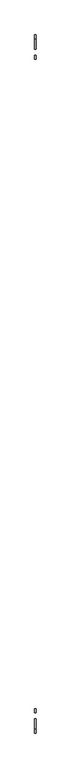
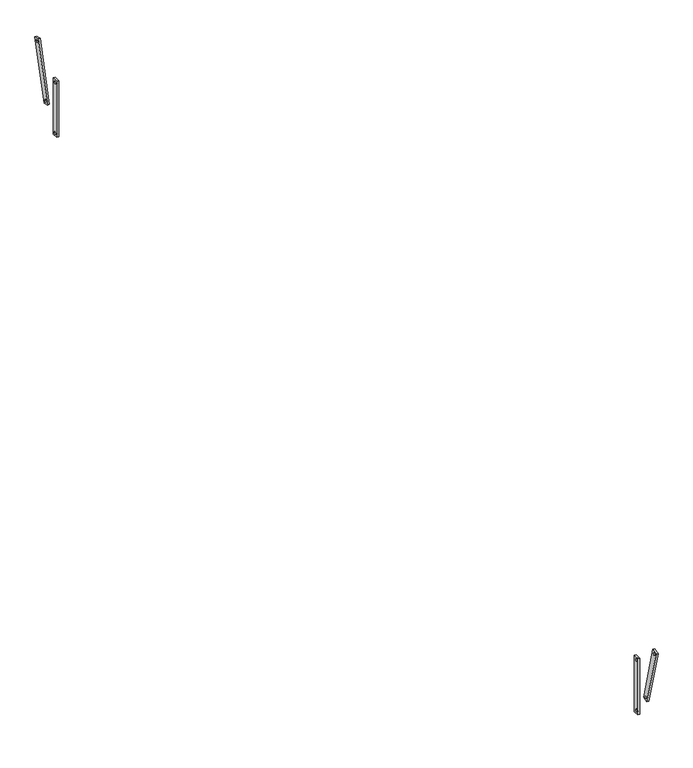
"""IFC4 building model written with IfcOpenShell, lengths in millimetres: proxy geometry, Modelos genéricos 281 : Modelos genéricos 278."""

from ifc_helpers import new_model, si_unit, point, frame, frame_2d, origin, place, context, project, spatial, polyline, circle_curve, trimmed, segment, composite_curve, outline, extrude, source, transform, mapped, element, save


def generic_models_d5e312a7(model_context):
    return source(origin(), model_context, "Body", "SweptSolid", [
        extrude(outline(polyline([(5318.6238165, 2800.0), (5318.6238165, 3200.0), (5358.6238165, 3200.0), (5358.6238165, 2800.0), (5318.6238165, 2800.0)]), holes=[composite_curve([segment(trimmed(circle_curve(frame_2d((5338.6238165, 3180.0)), 7.5), [point((5346.1238165, 3180.0))], [point((5331.1238165, 3180.0))], True, "CARTESIAN"), True, "CONTINUOUS"), segment(trimmed(circle_curve(frame_2d((5338.6238165, 3180.0)), 7.5), [point((5331.1238165, 3180.0))], [point((5346.1238165, 3180.0))], True, "CARTESIAN"), True, "CONTINUOUS")], self_intersect=False), composite_curve([segment(trimmed(circle_curve(frame_2d((5338.6238165, 2820.0)), 7.5), [point((5346.1238165, 2820.0))], [point((5331.1238165, 2820.0))], True, "CARTESIAN"), True, "CONTINUOUS"), segment(trimmed(circle_curve(frame_2d((5338.6238165, 2820.0)), 7.5), [point((5331.1238165, 2820.0))], [point((5346.1238165, 2820.0))], True, "CARTESIAN"), True, "CONTINUOUS")], self_intersect=False)]), frame((-9039.2527533, 0.0, 0.0), z_axis=(1.0, 0.0, 0.0), x_axis=(0.0, 1.0, 0.0)), (0.0, 0.0, 1.0), 12.7),
        extrude(outline(polyline([(5424.7907615, 2966.5419368), (5533.4947604, 3372.2307838), (5572.1317934, 3361.878022), (5463.4277945, 2956.1891749), (5424.7907615, 2966.5419368)]), holes=[composite_curve([segment(trimmed(circle_curve(frame_2d((5547.636896, 3347.7358864)), 7.5), [point((5554.8813397, 3345.7947435))], [point((5540.3924523, 3349.6770292))], True, "CARTESIAN"), True, "CONTINUOUS"), segment(trimmed(circle_curve(frame_2d((5547.636896, 3347.7358864)), 7.5), [point((5540.3924523, 3349.6770292))], [point((5554.8813397, 3345.7947435))], True, "CARTESIAN"), True, "CONTINUOUS")], self_intersect=False), composite_curve([segment(trimmed(circle_curve(frame_2d((5449.2856589, 2980.6840724)), 7.5), [point((5456.5301026, 2978.7429295))], [point((5442.0412152, 2982.6252152))], True, "CARTESIAN"), True, "CONTINUOUS"), segment(trimmed(circle_curve(frame_2d((5449.2856589, 2980.6840724)), 7.5), [point((5442.0412152, 2982.6252152))], [point((5456.5301026, 2978.7429295))], True, "CARTESIAN"), True, "CONTINUOUS")], self_intersect=False)]), frame((-9039.2527533, 0.0, 0.0), z_axis=(1.0, 0.0, 0.0), x_axis=(0.0, 1.0, 0.0)), (0.0, 0.0, 1.0), 12.7),
        extrude(outline(polyline([(-1421.3761835, 2800.0), (-1461.3761835, 2800.0), (-1461.3761835, 3200.0), (-1421.3761835, 3200.0), (-1421.3761835, 2800.0)]), holes=[composite_curve([segment(trimmed(circle_curve(frame_2d((-1441.3761835, 3180.0)), 7.5), [point((-1448.8761835, 3180.0))], [point((-1433.8761835, 3180.0))], True, "CARTESIAN"), True, "CONTINUOUS"), segment(trimmed(circle_curve(frame_2d((-1441.3761835, 3180.0)), 7.5), [point((-1433.8761835, 3180.0))], [point((-1448.8761835, 3180.0))], True, "CARTESIAN"), True, "CONTINUOUS")], self_intersect=False), composite_curve([segment(trimmed(circle_curve(frame_2d((-1441.3761835, 2820.0)), 7.5), [point((-1448.8761835, 2820.0))], [point((-1433.8761835, 2820.0))], True, "CARTESIAN"), True, "CONTINUOUS"), segment(trimmed(circle_curve(frame_2d((-1441.3761835, 2820.0)), 7.5), [point((-1433.8761835, 2820.0))], [point((-1448.8761835, 2820.0))], True, "CARTESIAN"), True, "CONTINUOUS")], self_intersect=False)]), frame((-9039.2527533, 0.0, 0.0), z_axis=(1.0, 0.0, 0.0), x_axis=(0.0, 1.0, 0.0)), (0.0, 0.0, 1.0), 12.7),
        extrude(outline(polyline([(-1527.5431285, 2966.5419368), (-1566.1801615, 2956.1891749), (-1674.8841605, 3361.878022), (-1636.2471274, 3372.2307838), (-1527.5431285, 2966.5419368)]), holes=[composite_curve([segment(trimmed(circle_curve(frame_2d((-1650.389263, 3347.7358864)), 7.5), [point((-1657.6337067, 3345.7947435))], [point((-1643.1448193, 3349.6770292))], True, "CARTESIAN"), True, "CONTINUOUS"), segment(trimmed(circle_curve(frame_2d((-1650.389263, 3347.7358864)), 7.5), [point((-1643.1448193, 3349.6770292))], [point((-1657.6337067, 3345.7947435))], True, "CARTESIAN"), True, "CONTINUOUS")], self_intersect=False), composite_curve([segment(trimmed(circle_curve(frame_2d((-1552.0380259, 2980.6840724)), 7.5), [point((-1559.2824696, 2978.7429295))], [point((-1544.7935822, 2982.6252152))], True, "CARTESIAN"), True, "CONTINUOUS"), segment(trimmed(circle_curve(frame_2d((-1552.0380259, 2980.6840724)), 7.5), [point((-1544.7935822, 2982.6252152))], [point((-1559.2824696, 2978.7429295))], True, "CARTESIAN"), True, "CONTINUOUS")], self_intersect=False)]), frame((-9039.2527533, 0.0, 0.0), z_axis=(1.0, 0.0, 0.0), x_axis=(0.0, 1.0, 0.0)), (0.0, 0.0, 1.0), 12.7),
    ])


if __name__ == "__main__":
    model = new_model("IFC4")
    model_context = context("Model", 3, world=origin())
    ifc_project = project(units=[si_unit("LENGTHUNIT", "METRE", prefix="MILLI")], contexts=[model_context])
    site = spatial("IfcSite", under=ifc_project)
    building = spatial("IfcBuilding", under=site)
    placement = place(None, origin())
    generic_models_shape = generic_models_d5e312a7(model_context)
    element("IfcBuildingElementProxy", 1, Name="Modelos genéricos 281 : Modelos genéricos 278", ObjectType="Modelos genéricos 281 : Modelos genéricos 278", at=placement, inside=building, context=model_context, shape_type="MappedRepresentation", body=[
        mapped(generic_models_shape, transform((0.0, 0.0, 0.0), x_axis=(1.0, 0.0, 0.0), y_axis=(0.0, 1.0, 0.0), z_axis=(0.0, 0.0, 1.0))),
    ])
    save(model, "model.ifc")
